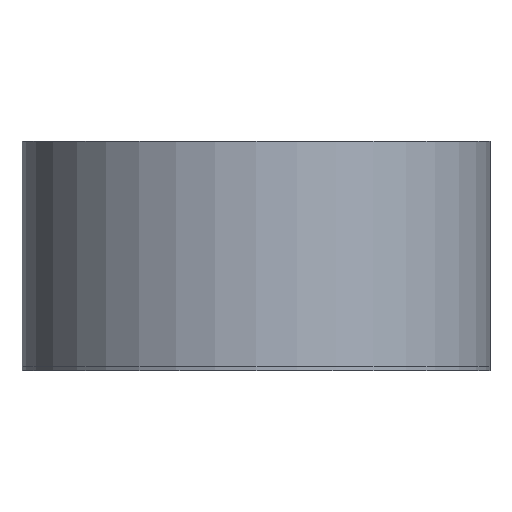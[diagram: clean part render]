
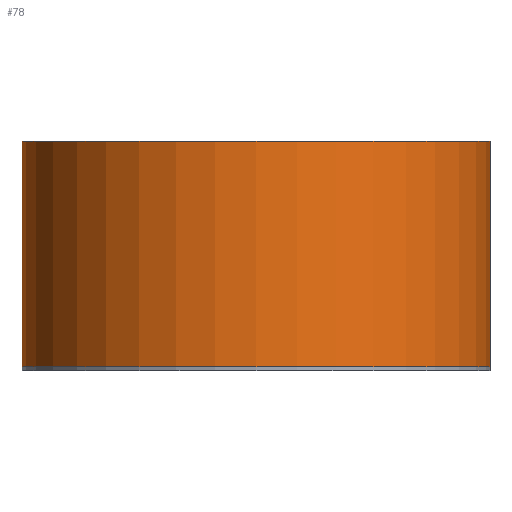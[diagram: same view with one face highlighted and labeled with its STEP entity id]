
A CAD part, front view. The second image highlights one B-rep face of the part: STEP entity #78.
In plain terms, the highlighted cylindrical face has radius 57 mm (diameter 114 mm), a partial arc.
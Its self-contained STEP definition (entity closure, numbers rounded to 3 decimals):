
#31 = DIRECTION ( 'NONE',  ( -1., 0., 0. ) ) ;
#74 = VERTEX_POINT ( 'NONE', #483 ) ;
#75 = VERTEX_POINT ( 'NONE', #499 ) ;
#77 = ORIENTED_EDGE ( 'NONE', *, *, #144, .T. ) ;
#78 = ADVANCED_FACE ( 'NONE', ( #492 ), #290, .T. ) ;
#89 = EDGE_LOOP ( 'NONE', ( #143, #292, #77, #149 ) ) ;
#90 = VERTEX_POINT ( 'NONE', #815 ) ;
#95 = EDGE_CURVE ( 'NONE', #167, #90, #789, .T. ) ;
#143 = ORIENTED_EDGE ( 'NONE', *, *, #95, .F. ) ;
#144 = EDGE_CURVE ( 'NONE', #75, #74, #652, .T. ) ;
#146 = EDGE_CURVE ( 'NONE', #74, #90, #693, .T. ) ;
#149 = ORIENTED_EDGE ( 'NONE', *, *, #146, .T. ) ;
#167 = VERTEX_POINT ( 'NONE', #678 ) ;
#213 = CARTESIAN_POINT ( 'NONE',  ( 0., 0., 56. ) ) ;
#286 = EDGE_CURVE ( 'NONE', #75, #167, #923, .T. ) ;
#288 = DIRECTION ( 'NONE',  ( 0., 0., -1. ) ) ;
#289 = AXIS2_PLACEMENT_3D ( 'NONE', #213, #288, #31 ) ;
#290 = CYLINDRICAL_SURFACE ( 'NONE', #289, 57. ) ;
#292 = ORIENTED_EDGE ( 'NONE', *, *, #286, .F. ) ;
#483 = CARTESIAN_POINT ( 'NONE',  ( -57., 0., 1. ) ) ;
#492 = FACE_OUTER_BOUND ( 'NONE', #89, .T. ) ;
#499 = CARTESIAN_POINT ( 'NONE',  ( -57., 0., 56. ) ) ;
#646 = DIRECTION ( 'NONE',  ( 1., 0., 0. ) ) ;
#647 = DIRECTION ( 'NONE',  ( 0., 0., 1. ) ) ;
#648 = CARTESIAN_POINT ( 'NONE',  ( 0., 0., 1. ) ) ;
#650 = DIRECTION ( 'NONE',  ( 0., 0., -1. ) ) ;
#651 = VECTOR ( 'NONE', #650, 1000. ) ;
#652 = LINE ( 'NONE', #704, #651 ) ;
#654 = AXIS2_PLACEMENT_3D ( 'NONE', #648, #647, #646 ) ;
#678 = CARTESIAN_POINT ( 'NONE',  ( 57., 0., 56. ) ) ;
#693 = CIRCLE ( 'NONE', #654, 57. ) ;
#704 = CARTESIAN_POINT ( 'NONE',  ( -57., 0., 56. ) ) ;
#748 = DIRECTION ( 'NONE',  ( 0., 0., -1. ) ) ;
#749 = VECTOR ( 'NONE', #748, 1000. ) ;
#789 = LINE ( 'NONE', #793, #749 ) ;
#793 = CARTESIAN_POINT ( 'NONE',  ( 57., 0., 56. ) ) ;
#815 = CARTESIAN_POINT ( 'NONE',  ( 57., 0., 1. ) ) ;
#909 = DIRECTION ( 'NONE',  ( 1., 0., 0. ) ) ;
#910 = DIRECTION ( 'NONE',  ( 0., 0., 1. ) ) ;
#911 = CARTESIAN_POINT ( 'NONE',  ( 0., 0., 56. ) ) ;
#923 = CIRCLE ( 'NONE', #1046, 57. ) ;
#1046 = AXIS2_PLACEMENT_3D ( 'NONE', #911, #910, #909 ) ;
